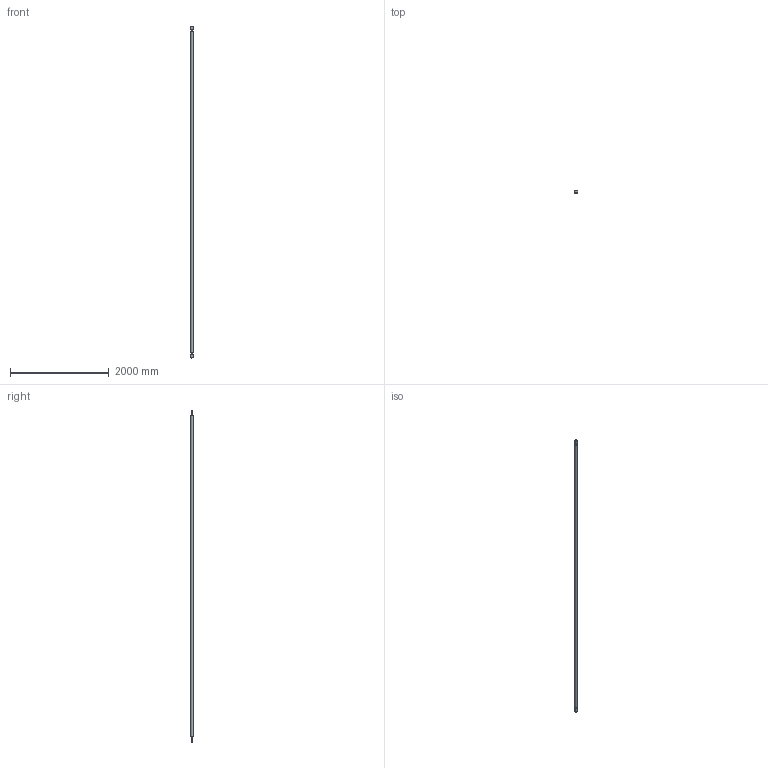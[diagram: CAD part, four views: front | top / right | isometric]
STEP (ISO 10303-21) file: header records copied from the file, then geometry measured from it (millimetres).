
FILE_DESCRIPTION (( 'STEP AP214' ), '1' );
FILE_NAME ('Êîìïëåêò ìîíòàæíûõ ÷àñòåé ê ÐËÊ (H=6500)-ÊÝÀÇ.STEP', '2023-02-21T10:51:35', ( '' ), ( '' ), 'SwSTEP 2.0', 'SolidWorks 2018', '' );
FILE_SCHEMA (( 'AUTOMOTIVE_DESIGN' ));
Length unit declared in the file: millimetre
Products named in the file (1): Êîìïëåêò ìîíòàæíûõ ÷àñòåé ê ÐËÊ (H=6500)-ÊÝÀÇ
Bounding box: 79.93 x 50 x 6740 mm (x, y, z)
Volume: 13112817.8 mm3; surface area: 1065903.6 mm2
Topology: 1 solids, 1 shells, 13 faces, 27 edges, 18 vertices
Faces by surface type: plane 10, cylinder 3
Full cylindrical faces by diameter (mm): 50 x1
Entity records: 376 total; most frequent: DIRECTION 60, CARTESIAN_POINT 58, ORIENTED_EDGE 52, EDGE_CURVE 26, AXIS2_PLACEMENT_3D 20, LINE 20, VECTOR 20, VERTEX_POINT 18
